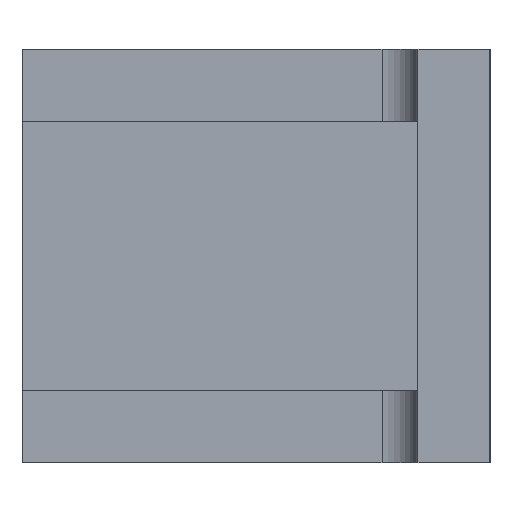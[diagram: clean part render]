
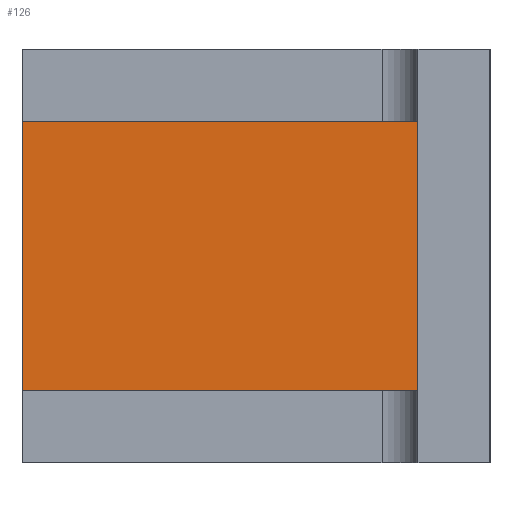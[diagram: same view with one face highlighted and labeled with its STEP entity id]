
A CAD part, left-side view. The second image highlights one B-rep face of the part: STEP entity #126.
In plain terms, the highlighted planar face has unit normal (-1, 0, 0).
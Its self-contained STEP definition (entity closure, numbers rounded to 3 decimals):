
#126 = ADVANCED_FACE( '', ( #346 ), #347, .T. );
#156 = VERTEX_POINT( '', #379 );
#196 = EDGE_CURVE( '', #308, #200, #425, .T. );
#200 = VERTEX_POINT( '', #429 );
#222 = VERTEX_POINT( '', #453 );
#240 = EDGE_CURVE( '', #156, #222, #472, .T. );
#308 = VERTEX_POINT( '', #549 );
#310 = EDGE_CURVE( '', #156, #308, #551, .T. );
#326 = EDGE_CURVE( '', #222, #200, #570, .T. );
#346 = FACE_OUTER_BOUND( '', #580, .T. );
#347 = PLANE( '', #581 );
#379 = CARTESIAN_POINT( '', ( -8., 0., 7.5 ) );
#425 = LINE( '', #686, #687 );
#429 = CARTESIAN_POINT( '', ( -8., -22., -7.5 ) );
#453 = CARTESIAN_POINT( '', ( -8., -22., 7.5 ) );
#472 = LINE( '', #753, #754 );
#549 = CARTESIAN_POINT( '', ( -8., 0., -7.5 ) );
#551 = LINE( '', #861, #862 );
#570 = LINE( '', #884, #885 );
#580 = EDGE_LOOP( '', ( #892, #893, #894, #895 ) );
#581 = AXIS2_PLACEMENT_3D( '', #896, #897, #898 );
#686 = CARTESIAN_POINT( '', ( -8., 0., -7.5 ) );
#687 = VECTOR( '', #984, 1. );
#753 = CARTESIAN_POINT( '', ( -8., 0., 7.5 ) );
#754 = VECTOR( '', #1022, 1. );
#861 = CARTESIAN_POINT( '', ( -8., 0., 7.5 ) );
#862 = VECTOR( '', #1113, 1. );
#884 = CARTESIAN_POINT( '', ( -8., -22., 9.5 ) );
#885 = VECTOR( '', #1142, 1. );
#892 = ORIENTED_EDGE( '', *, *, #196, .T. );
#893 = ORIENTED_EDGE( '', *, *, #326, .F. );
#894 = ORIENTED_EDGE( '', *, *, #240, .F. );
#895 = ORIENTED_EDGE( '', *, *, #310, .T. );
#896 = CARTESIAN_POINT( '', ( -8., 0., 7.5 ) );
#897 = DIRECTION( '', ( -1., 0., 0. ) );
#898 = DIRECTION( '', ( 0., 1., 0. ) );
#984 = DIRECTION( '', ( 0., -1., 0. ) );
#1022 = DIRECTION( '', ( 0., -1., 0. ) );
#1113 = DIRECTION( '', ( 0., 0., -1. ) );
#1142 = DIRECTION( '', ( 0., 0., -1. ) );
